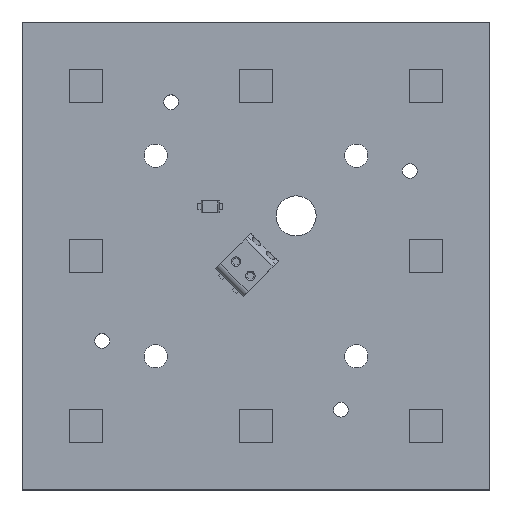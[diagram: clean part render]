
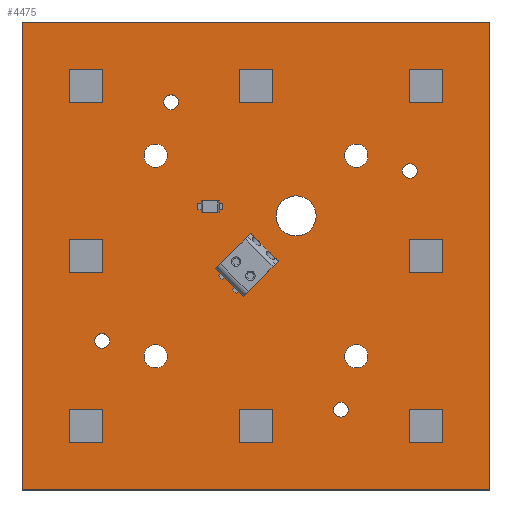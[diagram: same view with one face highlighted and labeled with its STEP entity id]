
A CAD part, top view. The second image highlights one B-rep face of the part: STEP entity #4475.
In plain terms, the highlighted planar face has unit normal (0, 0, 1).
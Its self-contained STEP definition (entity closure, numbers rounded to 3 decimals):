
#4022 = VERTEX_POINT('',#4023);
#4023 = CARTESIAN_POINT('',(-35.,-35.,0.));
#4029 = EDGE_CURVE('',#4022,#4030,#4032,.T.);
#4030 = VERTEX_POINT('',#4031);
#4031 = CARTESIAN_POINT('',(-35.,35.,0.));
#4032 = LINE('',#4033,#4034);
#4033 = CARTESIAN_POINT('',(-35.,-35.,0.));
#4034 = VECTOR('',#4035,1.);
#4035 = DIRECTION('',(0.,1.,0.));
#4060 = EDGE_CURVE('',#4030,#4061,#4063,.T.);
#4061 = VERTEX_POINT('',#4062);
#4062 = CARTESIAN_POINT('',(35.,35.,0.));
#4063 = LINE('',#4064,#4065);
#4064 = CARTESIAN_POINT('',(-35.,35.,0.));
#4065 = VECTOR('',#4066,1.);
#4066 = DIRECTION('',(1.,0.,0.));
#4091 = EDGE_CURVE('',#4061,#4092,#4094,.T.);
#4092 = VERTEX_POINT('',#4093);
#4093 = CARTESIAN_POINT('',(35.,-35.,0.));
#4094 = LINE('',#4095,#4096);
#4095 = CARTESIAN_POINT('',(35.,35.,0.));
#4096 = VECTOR('',#4097,1.);
#4097 = DIRECTION('',(0.,-1.,0.));
#4122 = EDGE_CURVE('',#4092,#4022,#4123,.T.);
#4123 = LINE('',#4124,#4125);
#4124 = CARTESIAN_POINT('',(35.,-35.,0.));
#4125 = VECTOR('',#4126,1.);
#4126 = DIRECTION('',(-1.,0.,0.));
#4146 = VERTEX_POINT('',#4147);
#4147 = CARTESIAN_POINT('',(-21.9,-12.7,0.));
#4153 = EDGE_CURVE('',#4146,#4146,#4154,.T.);
#4154 = CIRCLE('',#4155,1.1);
#4155 = AXIS2_PLACEMENT_3D('',#4156,#4157,#4158);
#4156 = CARTESIAN_POINT('',(-23.,-12.7,0.));
#4157 = DIRECTION('',(0.,0.,1.));
#4158 = DIRECTION('',(1.,0.,0.));
#4179 = VERTEX_POINT('',#4180);
#4180 = CARTESIAN_POINT('',(-13.25,-15.,0.));
#4186 = EDGE_CURVE('',#4179,#4179,#4187,.T.);
#4187 = CIRCLE('',#4188,1.75);
#4188 = AXIS2_PLACEMENT_3D('',#4189,#4190,#4191);
#4189 = CARTESIAN_POINT('',(-15.,-15.,0.));
#4190 = DIRECTION('',(0.,0.,1.));
#4191 = DIRECTION('',(1.,0.,0.));
#4212 = VERTEX_POINT('',#4213);
#4213 = CARTESIAN_POINT('',(-13.25,15.,0.));
#4219 = EDGE_CURVE('',#4212,#4212,#4220,.T.);
#4220 = CIRCLE('',#4221,1.75);
#4221 = AXIS2_PLACEMENT_3D('',#4222,#4223,#4224);
#4222 = CARTESIAN_POINT('',(-15.,15.,0.));
#4223 = DIRECTION('',(0.,0.,1.));
#4224 = DIRECTION('',(1.,0.,0.));
#4245 = VERTEX_POINT('',#4246);
#4246 = CARTESIAN_POINT('',(-11.6,23.,0.));
#4252 = EDGE_CURVE('',#4245,#4245,#4253,.T.);
#4253 = CIRCLE('',#4254,1.1);
#4254 = AXIS2_PLACEMENT_3D('',#4255,#4256,#4257);
#4255 = CARTESIAN_POINT('',(-12.7,23.,0.));
#4256 = DIRECTION('',(0.,0.,1.));
#4257 = DIRECTION('',(1.,0.,0.));
#4278 = VERTEX_POINT('',#4279);
#4279 = CARTESIAN_POINT('',(13.8,-23.,0.));
#4285 = EDGE_CURVE('',#4278,#4278,#4286,.T.);
#4286 = CIRCLE('',#4287,1.1);
#4287 = AXIS2_PLACEMENT_3D('',#4288,#4289,#4290);
#4288 = CARTESIAN_POINT('',(12.7,-23.,0.));
#4289 = DIRECTION('',(0.,0.,1.));
#4290 = DIRECTION('',(1.,0.,0.));
#4311 = VERTEX_POINT('',#4312);
#4312 = CARTESIAN_POINT('',(16.75,-15.,0.));
#4318 = EDGE_CURVE('',#4311,#4311,#4319,.T.);
#4319 = CIRCLE('',#4320,1.75);
#4320 = AXIS2_PLACEMENT_3D('',#4321,#4322,#4323);
#4321 = CARTESIAN_POINT('',(15.,-15.,0.));
#4322 = DIRECTION('',(0.,0.,1.));
#4323 = DIRECTION('',(1.,0.,0.));
#4344 = VERTEX_POINT('',#4345);
#4345 = CARTESIAN_POINT('',(9.,6.,0.));
#4351 = EDGE_CURVE('',#4344,#4344,#4352,.T.);
#4352 = CIRCLE('',#4353,3.);
#4353 = AXIS2_PLACEMENT_3D('',#4354,#4355,#4356);
#4354 = CARTESIAN_POINT('',(6.,6.,0.));
#4355 = DIRECTION('',(0.,0.,1.));
#4356 = DIRECTION('',(1.,0.,0.));
#4377 = VERTEX_POINT('',#4378);
#4378 = CARTESIAN_POINT('',(24.1,12.7,0.));
#4384 = EDGE_CURVE('',#4377,#4377,#4385,.T.);
#4385 = CIRCLE('',#4386,1.1);
#4386 = AXIS2_PLACEMENT_3D('',#4387,#4388,#4389);
#4387 = CARTESIAN_POINT('',(23.,12.7,0.));
#4388 = DIRECTION('',(0.,0.,1.));
#4389 = DIRECTION('',(1.,0.,0.));
#4410 = VERTEX_POINT('',#4411);
#4411 = CARTESIAN_POINT('',(16.75,15.,0.));
#4417 = EDGE_CURVE('',#4410,#4410,#4418,.T.);
#4418 = CIRCLE('',#4419,1.75);
#4419 = AXIS2_PLACEMENT_3D('',#4420,#4421,#4422);
#4420 = CARTESIAN_POINT('',(15.,15.,0.));
#4421 = DIRECTION('',(0.,0.,1.));
#4422 = DIRECTION('',(1.,0.,0.));
#4475 = ADVANCED_FACE('',(#4476,#4482,#4485,#4488,#4491,#4494,#4497,
    #4500,#4503,#4506),#4509,.T.);
#4476 = FACE_BOUND('',#4477,.F.);
#4477 = EDGE_LOOP('',(#4478,#4479,#4480,#4481));
#4478 = ORIENTED_EDGE('',*,*,#4029,.T.);
#4479 = ORIENTED_EDGE('',*,*,#4060,.T.);
#4480 = ORIENTED_EDGE('',*,*,#4091,.T.);
#4481 = ORIENTED_EDGE('',*,*,#4122,.T.);
#4482 = FACE_BOUND('',#4483,.T.);
#4483 = EDGE_LOOP('',(#4484));
#4484 = ORIENTED_EDGE('',*,*,#4153,.F.);
#4485 = FACE_BOUND('',#4486,.T.);
#4486 = EDGE_LOOP('',(#4487));
#4487 = ORIENTED_EDGE('',*,*,#4186,.F.);
#4488 = FACE_BOUND('',#4489,.T.);
#4489 = EDGE_LOOP('',(#4490));
#4490 = ORIENTED_EDGE('',*,*,#4219,.F.);
#4491 = FACE_BOUND('',#4492,.T.);
#4492 = EDGE_LOOP('',(#4493));
#4493 = ORIENTED_EDGE('',*,*,#4252,.F.);
#4494 = FACE_BOUND('',#4495,.T.);
#4495 = EDGE_LOOP('',(#4496));
#4496 = ORIENTED_EDGE('',*,*,#4285,.F.);
#4497 = FACE_BOUND('',#4498,.T.);
#4498 = EDGE_LOOP('',(#4499));
#4499 = ORIENTED_EDGE('',*,*,#4318,.F.);
#4500 = FACE_BOUND('',#4501,.T.);
#4501 = EDGE_LOOP('',(#4502));
#4502 = ORIENTED_EDGE('',*,*,#4351,.F.);
#4503 = FACE_BOUND('',#4504,.T.);
#4504 = EDGE_LOOP('',(#4505));
#4505 = ORIENTED_EDGE('',*,*,#4384,.F.);
#4506 = FACE_BOUND('',#4507,.T.);
#4507 = EDGE_LOOP('',(#4508));
#4508 = ORIENTED_EDGE('',*,*,#4417,.F.);
#4509 = PLANE('',#4510);
#4510 = AXIS2_PLACEMENT_3D('',#4511,#4512,#4513);
#4511 = CARTESIAN_POINT('',(-35.,-35.,0.));
#4512 = DIRECTION('',(0.,0.,1.));
#4513 = DIRECTION('',(1.,0.,0.));
